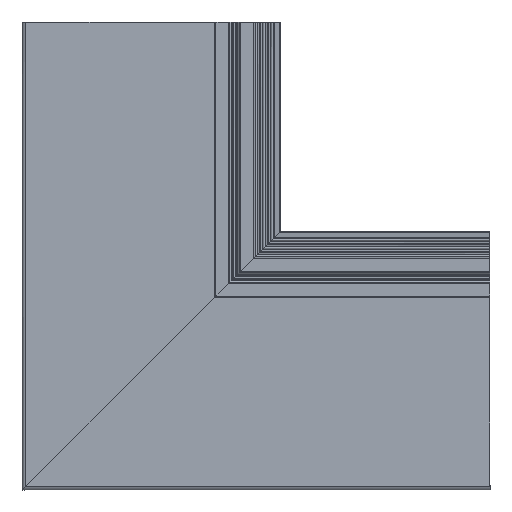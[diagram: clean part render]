
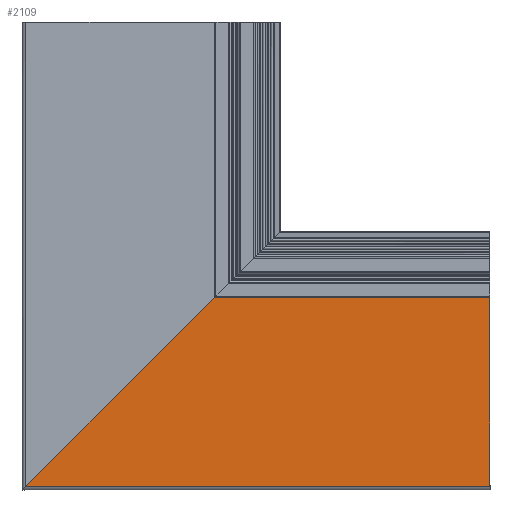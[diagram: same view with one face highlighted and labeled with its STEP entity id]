
A CAD part, front view. The second image highlights one B-rep face of the part: STEP entity #2109.
In plain terms, the highlighted planar face has unit normal (0, -1, 0).
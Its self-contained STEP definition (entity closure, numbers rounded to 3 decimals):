
#194 = ORIENTED_EDGE ( 'NONE', *, *, #2400, .T. ) ;
#545 = DIRECTION ( 'NONE',  ( 0., 0., 1. ) ) ;
#682 = PLANE ( 'NONE',  #7215 ) ;
#725 = CARTESIAN_POINT ( 'NONE',  ( -80., 3.06, 152.4 ) ) ;
#819 = LINE ( 'NONE', #725, #6864 ) ;
#834 = ORIENTED_EDGE ( 'NONE', *, *, #1899, .T. ) ;
#987 = DIRECTION ( 'NONE',  ( 0., 0., -1. ) ) ;
#994 = ORIENTED_EDGE ( 'NONE', *, *, #4740, .T. ) ;
#1534 = VECTOR ( 'NONE', #545, 1000. ) ;
#1544 = CARTESIAN_POINT ( 'NONE',  ( -80., 3.06, 152.4 ) ) ;
#1577 = VERTEX_POINT ( 'NONE', #8630 ) ;
#1781 = VERTEX_POINT ( 'NONE', #3043 ) ;
#1899 = EDGE_CURVE ( 'NONE', #1781, #4323, #7470, .T. ) ;
#1955 = CARTESIAN_POINT ( 'NONE',  ( 45.253, 3.06, 152.4 ) ) ;
#2109 = ADVANCED_FACE ( 'NONE', ( #6924 ), #682, .F. ) ;
#2400 = EDGE_CURVE ( 'NONE', #1577, #5808, #2975, .T. ) ;
#2716 = DIRECTION ( 'NONE',  ( 1., 0., 0. ) ) ;
#2975 = LINE ( 'NONE', #5036, #7791 ) ;
#3043 = CARTESIAN_POINT ( 'NONE',  ( 45.253, 3.06, -152.4 ) ) ;
#3114 = EDGE_LOOP ( 'NONE', ( #834, #3361, #194, #994 ) ) ;
#3361 = ORIENTED_EDGE ( 'NONE', *, *, #7686, .T. ) ;
#4203 = VECTOR ( 'NONE', #2716, 1000. ) ;
#4323 = VERTEX_POINT ( 'NONE', #6973 ) ;
#4740 = EDGE_CURVE ( 'NONE', #5808, #1781, #6962, .T. ) ;
#5036 = CARTESIAN_POINT ( 'NONE',  ( -77.5, 3.06, 152.4 ) ) ;
#5730 = DIRECTION ( 'NONE',  ( 0., 1., 0. ) ) ;
#5808 = VERTEX_POINT ( 'NONE', #8138 ) ;
#6188 = CARTESIAN_POINT ( 'NONE',  ( -80., 3.06, -152.4 ) ) ;
#6864 = VECTOR ( 'NONE', #7648, 1000. ) ;
#6924 = FACE_OUTER_BOUND ( 'NONE', #3114, .T. ) ;
#6962 = LINE ( 'NONE', #6188, #4203 ) ;
#6973 = CARTESIAN_POINT ( 'NONE',  ( 45.253, 3.06, 27.147 ) ) ;
#7215 = AXIS2_PLACEMENT_3D ( 'NONE', #1544, #5730, #8459 ) ;
#7470 = LINE ( 'NONE', #1955, #1534 ) ;
#7648 = DIRECTION ( 'NONE',  ( -0.707, 0., 0.707 ) ) ;
#7686 = EDGE_CURVE ( 'NONE', #4323, #1577, #819, .T. ) ;
#7791 = VECTOR ( 'NONE', #987, 1000. ) ;
#8138 = CARTESIAN_POINT ( 'NONE',  ( -77.5, 3.06, -152.4 ) ) ;
#8459 = DIRECTION ( 'NONE',  ( 0., 0., 1. ) ) ;
#8630 = CARTESIAN_POINT ( 'NONE',  ( -77.5, 3.06, 149.9 ) ) ;
